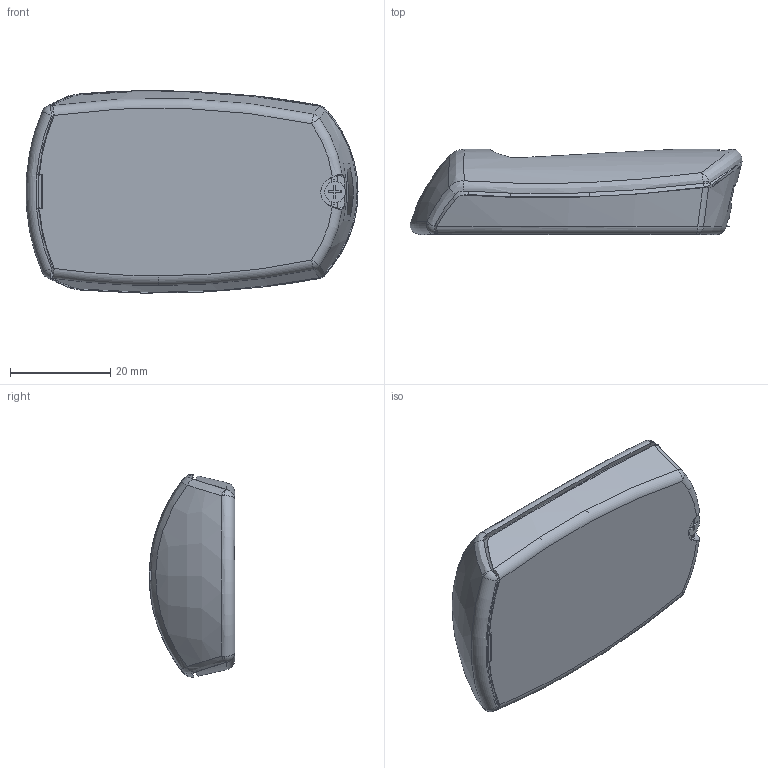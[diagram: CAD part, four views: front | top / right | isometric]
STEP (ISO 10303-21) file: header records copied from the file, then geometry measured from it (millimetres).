
FILE_DESCRIPTION (( 'STEP AP214' ), '1' );
FILE_NAME ('Conjunt PP111.STEP', '2018-06-05T09:50:04', ( 'aaa' ), ( '' ), 'SwSTEP 2.0', 'SolidWorks 2013', '' );
FILE_SCHEMA (( 'AUTOMOTIVE_DESIGN' ));
Length unit declared in the file: millimetre
Products named in the file (5): Cargol PP111 2,2x9,5 DIN 7982; Cos PP111_tapa; Junta PP111_tapa; Tapa PP111_tapa; Conjunt PP111
Assembly tree (4 placements, depth 2):
  Conjunt PP111
    Tapa PP111_tapa
    Junta PP111_tapa
    Cos PP111_tapa
    Cargol PP111 2,2x9,5 DIN 7982
Bounding box: 66.14 x 17 x 40.28 mm (x, y, z)
Volume: 12016.3 mm3; surface area: 19133.1 mm2
Topology: 6 solids, 6 shells, 492 faces, 1286 edges, 799 vertices
Faces by surface type: plane 167, bspline 105, cone 88, cylinder 81, torus 31, sphere 20
Entity records: 20338 total; most frequent: CARTESIAN_POINT 9226, ORIENTED_EDGE 2552, DIRECTION 1875, EDGE_CURVE 1276, VERTEX_POINT 799, AXIS2_PLACEMENT_3D 691, EDGE_LOOP 515, VECTOR 493
